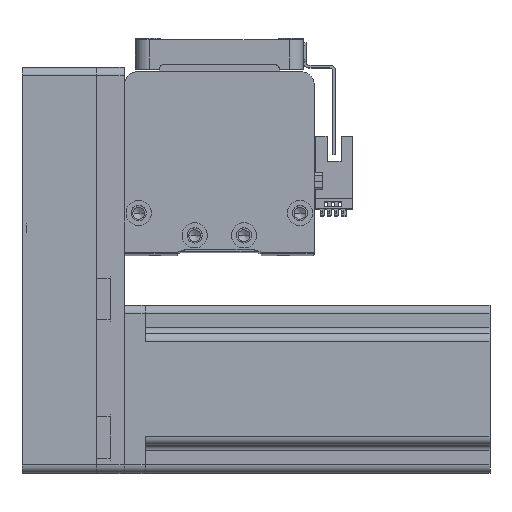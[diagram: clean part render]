
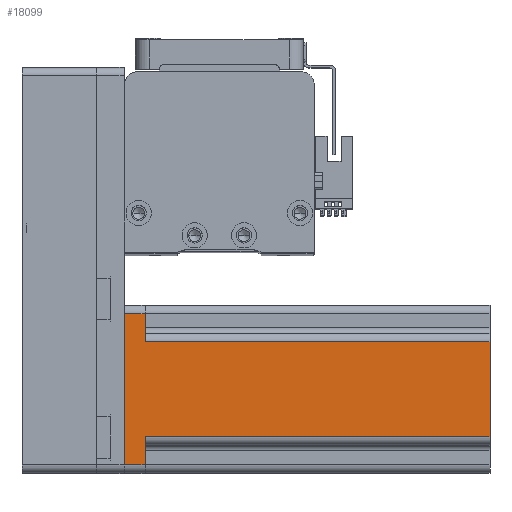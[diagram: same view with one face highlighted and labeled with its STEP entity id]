
A CAD part, top view. The second image highlights one B-rep face of the part: STEP entity #18099.
In plain terms, the highlighted planar face has unit normal (0, 0, 1) as drawn and (0, -1, 0) by its records, which use the part's own axes.
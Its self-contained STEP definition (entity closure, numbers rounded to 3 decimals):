
#672 = LINE ( 'NONE', #16392, #33697 ) ;
#694 = CARTESIAN_POINT ( 'NONE',  ( -17., -30., 130.7 ) ) ;
#1239 = DIRECTION ( 'NONE',  ( 0., 0., 1. ) ) ;
#1652 = LINE ( 'NONE', #36520, #35791 ) ;
#2409 = VECTOR ( 'NONE', #1239, 1000. ) ;
#2692 = DIRECTION ( 'NONE',  ( 1., 0., 0. ) ) ;
#3023 = CARTESIAN_POINT ( 'NONE',  ( 27., -30., 0. ) ) ;
#4172 = FACE_OUTER_BOUND ( 'NONE', #20391, .T. ) ;
#4314 = ORIENTED_EDGE ( 'NONE', *, *, #36417, .F. ) ;
#4800 = ORIENTED_EDGE ( 'NONE', *, *, #16332, .T. ) ;
#6634 = VECTOR ( 'NONE', #41694, 1000. ) ;
#6838 = VERTEX_POINT ( 'NONE', #12827 ) ;
#6928 = CARTESIAN_POINT ( 'NONE',  ( -27., -30., 7.5 ) ) ;
#6965 = VERTEX_POINT ( 'NONE', #3023 ) ;
#7392 = CARTESIAN_POINT ( 'NONE',  ( 30., -30., 130.7 ) ) ;
#8602 = CARTESIAN_POINT ( 'NONE',  ( 27., -30., 7.5 ) ) ;
#8653 = LINE ( 'NONE', #22981, #25217 ) ;
#8871 = VERTEX_POINT ( 'NONE', #694 ) ;
#9127 = CARTESIAN_POINT ( 'NONE',  ( 17., -30., 130.7 ) ) ;
#9449 = CARTESIAN_POINT ( 'NONE',  ( 30., -30., 130.7 ) ) ;
#9538 = VERTEX_POINT ( 'NONE', #25552 ) ;
#9913 = LINE ( 'NONE', #25816, #35283 ) ;
#10456 = LINE ( 'NONE', #9449, #28072 ) ;
#10743 = DIRECTION ( 'NONE',  ( -1., 0., 0. ) ) ;
#12827 = CARTESIAN_POINT ( 'NONE',  ( -17., -30., 7.5 ) ) ;
#13132 = AXIS2_PLACEMENT_3D ( 'NONE', #7392, #30519, #10743 ) ;
#13362 = DIRECTION ( 'NONE',  ( 1., 0., 0. ) ) ;
#13458 = EDGE_CURVE ( 'NONE', #28273, #29495, #8653, .T. ) ;
#13632 = VECTOR ( 'NONE', #17015, 1000. ) ;
#16332 = EDGE_CURVE ( 'NONE', #29495, #38389, #27723, .T. ) ;
#16392 = CARTESIAN_POINT ( 'NONE',  ( -17., -30., 130.7 ) ) ;
#17015 = DIRECTION ( 'NONE',  ( 1., 0., 0. ) ) ;
#17348 = ORIENTED_EDGE ( 'NONE', *, *, #38295, .T. ) ;
#17853 = EDGE_CURVE ( 'NONE', #6965, #28273, #9913, .T. ) ;
#18007 = EDGE_CURVE ( 'NONE', #9538, #6965, #1652, .T. ) ;
#18099 = ADVANCED_FACE ( 'NONE', ( #4172 ), #37088, .F. ) ;
#19305 = DIRECTION ( 'NONE',  ( 0., 0., 1. ) ) ;
#19740 = ORIENTED_EDGE ( 'NONE', *, *, #18007, .T. ) ;
#20391 = EDGE_LOOP ( 'NONE', ( #4314, #42221, #37157, #17348, #19740, #40532, #31301, #4800 ) ) ;
#22744 = CARTESIAN_POINT ( 'NONE',  ( 17., -30., 7.5 ) ) ;
#22981 = CARTESIAN_POINT ( 'NONE',  ( 20., -30., 7.5 ) ) ;
#25042 = VERTEX_POINT ( 'NONE', #6928 ) ;
#25195 = CARTESIAN_POINT ( 'NONE',  ( -27., -30., 130.7 ) ) ;
#25217 = VECTOR ( 'NONE', #26369, 1000. ) ;
#25552 = CARTESIAN_POINT ( 'NONE',  ( -27., -30., 0. ) ) ;
#25816 = CARTESIAN_POINT ( 'NONE',  ( 27., -30., 130.7 ) ) ;
#26369 = DIRECTION ( 'NONE',  ( -1., 0., 0. ) ) ;
#26382 = DIRECTION ( 'NONE',  ( 0., 0., -1. ) ) ;
#27723 = LINE ( 'NONE', #40971, #2409 ) ;
#28072 = VECTOR ( 'NONE', #2692, 1000. ) ;
#28273 = VERTEX_POINT ( 'NONE', #8602 ) ;
#29495 = VERTEX_POINT ( 'NONE', #22744 ) ;
#30519 = DIRECTION ( 'NONE',  ( 0., 1., 0. ) ) ;
#31216 = LINE ( 'NONE', #36844, #13632 ) ;
#31301 = ORIENTED_EDGE ( 'NONE', *, *, #13458, .T. ) ;
#33013 = LINE ( 'NONE', #25195, #6634 ) ;
#33697 = VECTOR ( 'NONE', #26382, 1000. ) ;
#35283 = VECTOR ( 'NONE', #19305, 1000. ) ;
#35791 = VECTOR ( 'NONE', #13362, 1000. ) ;
#36417 = EDGE_CURVE ( 'NONE', #8871, #38389, #10456, .T. ) ;
#36488 = EDGE_CURVE ( 'NONE', #8871, #6838, #672, .T. ) ;
#36520 = CARTESIAN_POINT ( 'NONE',  ( 30., -30., 0. ) ) ;
#36844 = CARTESIAN_POINT ( 'NONE',  ( -20., -30., 7.5 ) ) ;
#37088 = PLANE ( 'NONE',  #13132 ) ;
#37157 = ORIENTED_EDGE ( 'NONE', *, *, #40412, .F. ) ;
#38295 = EDGE_CURVE ( 'NONE', #25042, #9538, #33013, .T. ) ;
#38389 = VERTEX_POINT ( 'NONE', #9127 ) ;
#40412 = EDGE_CURVE ( 'NONE', #25042, #6838, #31216, .T. ) ;
#40532 = ORIENTED_EDGE ( 'NONE', *, *, #17853, .T. ) ;
#40971 = CARTESIAN_POINT ( 'NONE',  ( 17., -30., 130.7 ) ) ;
#41694 = DIRECTION ( 'NONE',  ( 0., 0., -1. ) ) ;
#42221 = ORIENTED_EDGE ( 'NONE', *, *, #36488, .T. ) ;
